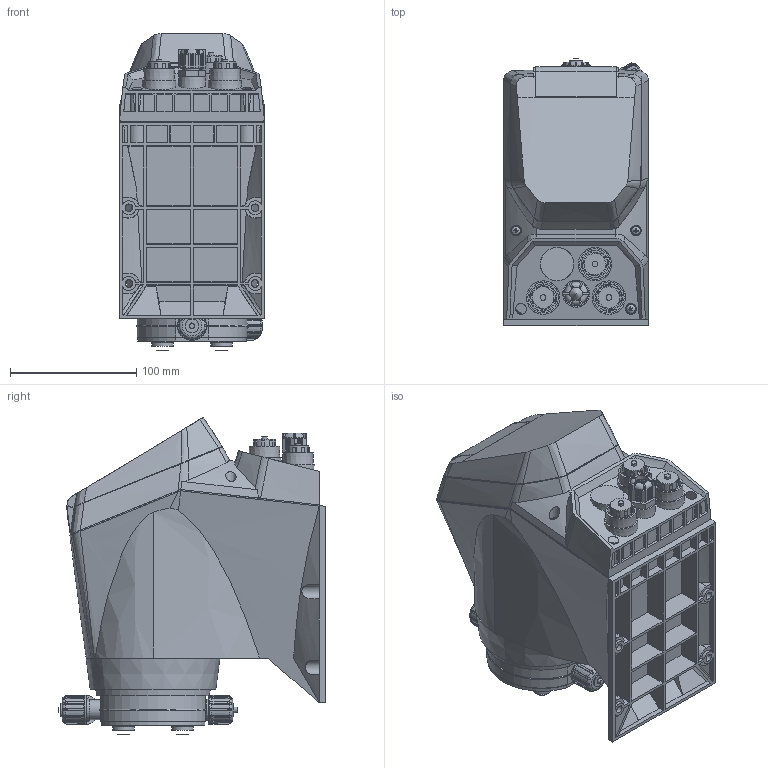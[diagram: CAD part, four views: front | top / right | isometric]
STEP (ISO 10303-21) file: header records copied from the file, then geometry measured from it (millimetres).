
FILE_DESCRIPTION(/* description */ (''),/* implementation_level */ '2;1');
FILE_NAME(/* name */ 'NEXTSTEP_PH_L-M.stp',/* time_stamp */ '2025-04-15T11:35:29+02:00',/* author */ ('alessandro.demichele'),/* organization */ (''),/* preprocessor_version */ 'ST-DEVELOPER v20',/* originating_system */ 'Autodesk Inventor 2024',/* authorisation */ '');
FILE_SCHEMA (('CONFIG_CONTROL_DESIGN'));
Products named in the file (1): NEXTSTEP_PH_L-M
Bounding box: 114.77 x 211.73 x 250.89 mm (x, y, z)
Volume: 3233025.1 mm3; surface area: 269428.6 mm2
Topology: 1 solids, 1 shells, 1625 faces, 4400 edges, 2883 vertices
Faces by surface type: plane 1033, cylinder 237, cone 172, bspline 133, torus 46, sphere 4
Full cylindrical faces by diameter (mm): 2.3 x2, 4.5 x3, 5 x2, 5.5 x1, 6.9 x4, 10.2 x1, 10.7 x2, 12 x1, 14.4 x4, 14.5 x2, 15.8 x2, 15.9 x4, 16 x1, 16.1 x3, 16.66 x3, 17 x7, 18 x5, 22.96 x3, 46.4 x1, 77 x1
Entity records: 65119 total; most frequent: CARTESIAN_POINT 25674, ORIENTED_EDGE 8796, DIRECTION 7520, EDGE_CURVE 4398, VERTEX_POINT 2883, AXIS2_PLACEMENT_3D 2646, LINE 2228, VECTOR 2228
